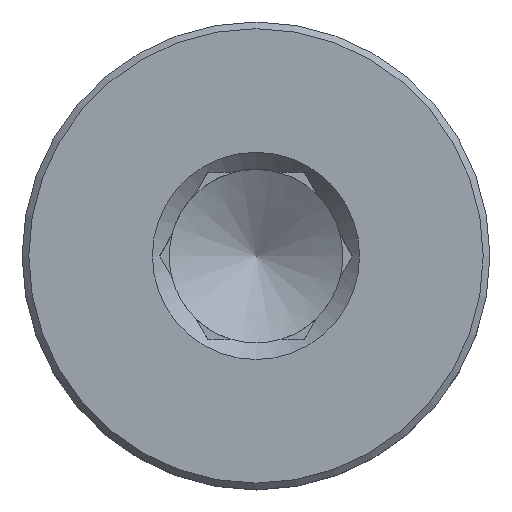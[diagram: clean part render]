
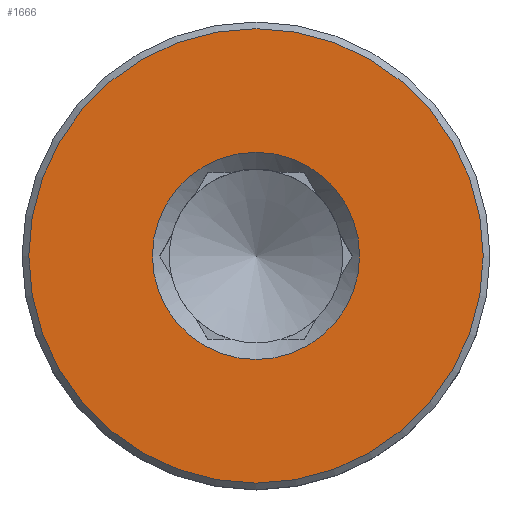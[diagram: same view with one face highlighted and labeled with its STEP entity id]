
A CAD part, top view. The second image highlights one B-rep face of the part: STEP entity #1666.
In plain terms, the highlighted planar face has unit normal (0, 0, 1) as drawn and (0, 1, 0) by its records, which use the part's own axes.
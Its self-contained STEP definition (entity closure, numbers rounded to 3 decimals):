
#507=PLANE('',#1599);
#547=ORIENTED_EDGE('',*,*,#755,.F.);
#548=ORIENTED_EDGE('',*,*,#756,.F.);
#676=CIRCLE('',#1598,6.8);
#677=CIRCLE('',#1600,3.1);
#703=VERTEX_POINT('',#1449);
#704=VERTEX_POINT('',#1452);
#755=EDGE_CURVE('',#703,#703,#676,.T.);
#756=EDGE_CURVE('',#704,#704,#677,.T.);
#833=EDGE_LOOP('',(#547));
#834=EDGE_LOOP('',(#548));
#883=FACE_BOUND('',#833,.T.);
#884=FACE_BOUND('',#834,.T.);
#1275=DIRECTION('',(0.,-1.,0.));
#1276=DIRECTION('',(0.,0.,6.8));
#1277=DIRECTION('',(0.,1.,0.));
#1278=DIRECTION('',(1.,0.,0.));
#1279=DIRECTION('',(0.,1.,0.));
#1280=DIRECTION('',(0.,0.,3.1));
#1449=CARTESIAN_POINT('',(21.866,19.761,6.8));
#1450=CARTESIAN_POINT('',(21.866,19.761,0.));
#1451=CARTESIAN_POINT('',(28.666,19.761,0.));
#1452=CARTESIAN_POINT('',(21.866,19.761,3.1));
#1453=CARTESIAN_POINT('',(21.866,19.761,0.));
#1598=AXIS2_PLACEMENT_3D('',#1450,#1275,#1276);
#1599=AXIS2_PLACEMENT_3D('',#1451,#1277,#1278);
#1600=AXIS2_PLACEMENT_3D('',#1453,#1279,#1280);
#1666=ADVANCED_FACE('',(#883,#884),#507,.T.);
